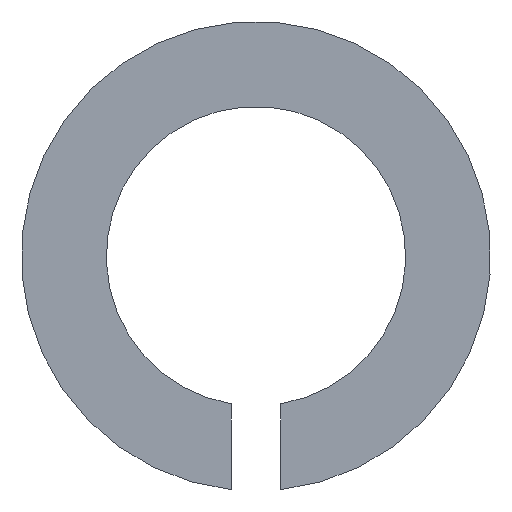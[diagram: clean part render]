
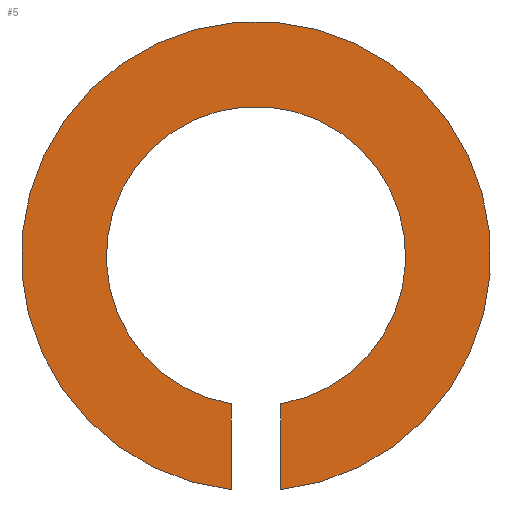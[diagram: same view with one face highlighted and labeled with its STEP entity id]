
A CAD part, left-side view. The second image highlights one B-rep face of the part: STEP entity #5.
In plain terms, the highlighted planar face has unit normal (-1, 0, 0).
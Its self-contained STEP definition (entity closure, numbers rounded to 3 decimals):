
#5 = ADVANCED_FACE ( 'NONE', ( #214 ), #47, .T. ) ;
#13 = DIRECTION ( 'NONE',  ( -1., 0., 0. ) ) ;
#25 = VERTEX_POINT ( 'NONE', #30 ) ;
#30 = CARTESIAN_POINT ( 'NONE',  ( -110., -34.667, 63.685 ) ) ;
#33 = DIRECTION ( 'NONE',  ( 0., 1., 0. ) ) ;
#37 = VECTOR ( 'NONE', #38, 1000. ) ;
#38 = DIRECTION ( 'NONE',  ( 0., 0., 1. ) ) ;
#42 = EDGE_LOOP ( 'NONE', ( #147, #110, #171, #124 ) ) ;
#47 = PLANE ( 'NONE',  #104 ) ;
#52 = DIRECTION ( 'NONE',  ( 0., 0., -1. ) ) ;
#68 = LINE ( 'NONE', #112, #213 ) ;
#71 = DIRECTION ( 'NONE',  ( 0., 0., 1. ) ) ;
#72 = CARTESIAN_POINT ( 'NONE',  ( -110., -34.667, 66.005 ) ) ;
#80 = AXIS2_PLACEMENT_3D ( 'NONE', #146, #216, #33 ) ;
#82 = CARTESIAN_POINT ( 'NONE',  ( -110., -34., 70. ) ) ;
#84 = VERTEX_POINT ( 'NONE', #192 ) ;
#91 = EDGE_CURVE ( 'NONE', #143, #84, #220, .T. ) ;
#104 = AXIS2_PLACEMENT_3D ( 'NONE', #235, #13, #71 ) ;
#110 = ORIENTED_EDGE ( 'NONE', *, *, #91, .F. ) ;
#112 = CARTESIAN_POINT ( 'NONE',  ( -110., -34.667, 70. ) ) ;
#120 = EDGE_CURVE ( 'NONE', #165, #84, #173, .T. ) ;
#124 = ORIENTED_EDGE ( 'NONE', *, *, #222, .T. ) ;
#132 = CARTESIAN_POINT ( 'NONE',  ( -110., -33.333, 63.685 ) ) ;
#143 = VERTEX_POINT ( 'NONE', #72 ) ;
#146 = CARTESIAN_POINT ( 'NONE',  ( -110., -34., 70. ) ) ;
#147 = ORIENTED_EDGE ( 'NONE', *, *, #120, .T. ) ;
#159 = AXIS2_PLACEMENT_3D ( 'NONE', #82, #180, #217 ) ;
#165 = VERTEX_POINT ( 'NONE', #132 ) ;
#171 = ORIENTED_EDGE ( 'NONE', *, *, #233, .T. ) ;
#173 = LINE ( 'NONE', #225, #37 ) ;
#180 = DIRECTION ( 'NONE',  ( -1., 0., 0. ) ) ;
#192 = CARTESIAN_POINT ( 'NONE',  ( -110., -33.333, 66.005 ) ) ;
#213 = VECTOR ( 'NONE', #52, 1000. ) ;
#214 = FACE_OUTER_BOUND ( 'NONE', #42, .T. ) ;
#216 = DIRECTION ( 'NONE',  ( -1., 0., 0. ) ) ;
#217 = DIRECTION ( 'NONE',  ( 0., 1., 0. ) ) ;
#220 = CIRCLE ( 'NONE', #159, 4.05 ) ;
#222 = EDGE_CURVE ( 'NONE', #25, #165, #241, .T. ) ;
#225 = CARTESIAN_POINT ( 'NONE',  ( -110., -33.333, 70. ) ) ;
#233 = EDGE_CURVE ( 'NONE', #143, #25, #68, .T. ) ;
#235 = CARTESIAN_POINT ( 'NONE',  ( -110., -28.8, 70. ) ) ;
#241 = CIRCLE ( 'NONE', #80, 6.35 ) ;
